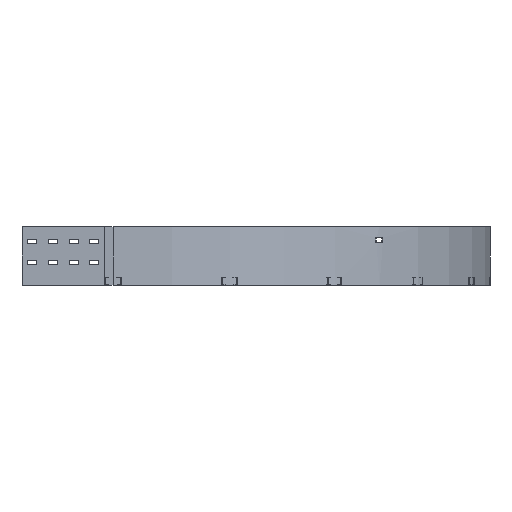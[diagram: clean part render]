
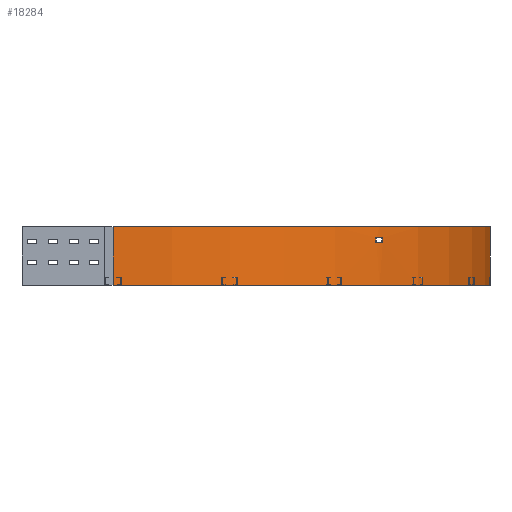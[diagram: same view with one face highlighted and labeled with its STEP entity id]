
A CAD part, front view. The second image highlights one B-rep face of the part: STEP entity #18284.
In plain terms, the highlighted cylindrical face has radius 911 mm (diameter 1822 mm), a partial arc.
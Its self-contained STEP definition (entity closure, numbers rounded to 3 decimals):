
#455=FACE_BOUND('',#2620,.T.);
#835=CYLINDRICAL_SURFACE('',#19247,911.);
#868=CIRCLE('',#19239,911.);
#873=CIRCLE('',#19246,911.);
#874=CIRCLE('',#19248,911.);
#875=CIRCLE('',#19249,911.);
#1682=FACE_OUTER_BOUND('',#2619,.T.);
#2619=EDGE_LOOP('',(#12356,#12357,#12358,#12359));
#2620=EDGE_LOOP('',(#12360,#12361,#12362,#12363));
#3935=LINE('',#25345,#5851);
#3941=LINE('',#25369,#5857);
#3942=LINE('',#25374,#5858);
#3943=LINE('',#25377,#5859);
#5851=VECTOR('',#20662,304.8);
#5857=VECTOR('',#20688,304.8);
#5858=VECTOR('',#20691,304.8);
#5859=VECTOR('',#20694,304.8);
#7764=VERTEX_POINT('',#25338);
#7767=VERTEX_POINT('',#25343);
#7768=VERTEX_POINT('',#25347);
#7775=VERTEX_POINT('',#25365);
#7776=VERTEX_POINT('',#25370);
#7777=VERTEX_POINT('',#25371);
#7778=VERTEX_POINT('',#25373);
#7779=VERTEX_POINT('',#25375);
#9591=EDGE_CURVE('',#7767,#7764,#3935,.T.);
#9592=EDGE_CURVE('',#7764,#7768,#868,.T.);
#9602=EDGE_CURVE('',#7775,#7767,#873,.T.);
#9603=EDGE_CURVE('',#7768,#7775,#3941,.T.);
#9604=EDGE_CURVE('',#7776,#7777,#874,.T.);
#9605=EDGE_CURVE('',#7777,#7778,#3942,.T.);
#9606=EDGE_CURVE('',#7778,#7779,#875,.T.);
#9607=EDGE_CURVE('',#7779,#7776,#3943,.T.);
#12356=ORIENTED_EDGE('',*,*,#9591,.F.);
#12357=ORIENTED_EDGE('',*,*,#9602,.F.);
#12358=ORIENTED_EDGE('',*,*,#9603,.F.);
#12359=ORIENTED_EDGE('',*,*,#9592,.F.);
#12360=ORIENTED_EDGE('',*,*,#9604,.T.);
#12361=ORIENTED_EDGE('',*,*,#9605,.T.);
#12362=ORIENTED_EDGE('',*,*,#9606,.T.);
#12363=ORIENTED_EDGE('',*,*,#9607,.T.);
#18284=ADVANCED_FACE('',(#1682,#455),#835,.T.);
#19239=AXIS2_PLACEMENT_3D('',#25348,#20665,#20666);
#19246=AXIS2_PLACEMENT_3D('',#25367,#20684,#20685);
#19247=AXIS2_PLACEMENT_3D('',#25368,#20686,#20687);
#19248=AXIS2_PLACEMENT_3D('',#25372,#20689,#20690);
#19249=AXIS2_PLACEMENT_3D('',#25376,#20692,#20693);
#20662=DIRECTION('',(0.,0.,1.));
#20665=DIRECTION('center_axis',(0.,0.,1.));
#20666=DIRECTION('ref_axis',(0.,-1.,0.));
#20684=DIRECTION('center_axis',(0.,0.,-1.));
#20685=DIRECTION('ref_axis',(0.,-1.,0.));
#20686=DIRECTION('center_axis',(0.,0.,1.));
#20687=DIRECTION('ref_axis',(0.,-1.,0.));
#20688=DIRECTION('',(0.,0.,-1.));
#20689=DIRECTION('center_axis',(0.,0.,1.));
#20690=DIRECTION('ref_axis',(0.,-1.,0.));
#20691=DIRECTION('',(0.,0.,-1.));
#20692=DIRECTION('center_axis',(0.,0.,-1.));
#20693=DIRECTION('ref_axis',(0.,-1.,0.));
#20694=DIRECTION('',(0.,0.,1.));
#25338=CARTESIAN_POINT('',(-605.5,-305.5,71.));
#25343=CARTESIAN_POINT('',(-605.5,-305.5,-71.));
#25345=CARTESIAN_POINT('',(-605.5,-305.5,-71.));
#25347=CARTESIAN_POINT('',(305.5,605.5,71.));
#25348=CARTESIAN_POINT('Origin',(-605.5,605.5,71.));
#25365=CARTESIAN_POINT('',(305.5,605.5,-71.));
#25367=CARTESIAN_POINT('Origin',(-605.5,605.5,-71.));
#25368=CARTESIAN_POINT('Origin',(-605.5,605.5,0.));
#25369=CARTESIAN_POINT('',(305.5,605.5,71.));
#25370=CARTESIAN_POINT('',(30.937,-46.32,44.));
#25371=CARTESIAN_POINT('',(46.491,-30.761,44.));
#25372=CARTESIAN_POINT('Origin',(-605.5,605.5,44.));
#25373=CARTESIAN_POINT('',(46.491,-30.761,33.));
#25374=CARTESIAN_POINT('',(46.491,-30.761,44.));
#25375=CARTESIAN_POINT('',(30.937,-46.32,33.));
#25376=CARTESIAN_POINT('Origin',(-605.5,605.5,33.));
#25377=CARTESIAN_POINT('',(30.937,-46.32,33.));
